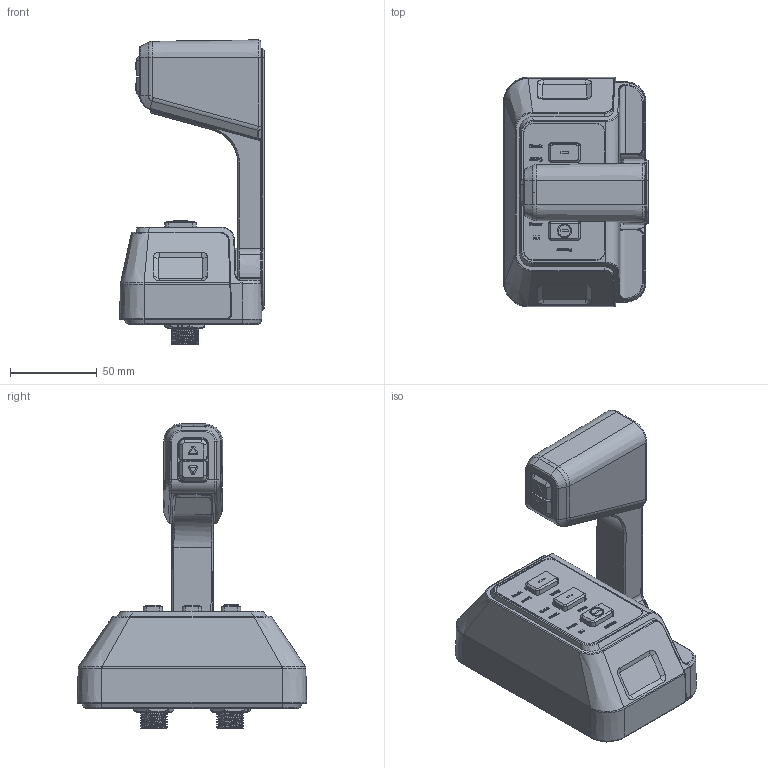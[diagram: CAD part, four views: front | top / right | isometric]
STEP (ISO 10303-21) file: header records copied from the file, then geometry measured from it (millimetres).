
FILE_DESCRIPTION (( 'STEP AP214' ), '1' );
FILE_NAME ('X-有线远操盒（标准单操）.STEP', '2023-03-21T03:46:49', ( '1' ), ( '逸动' ), 'SwSTEP 2.0', 'SolidWorks 2016', '' );
FILE_SCHEMA (( 'AUTOMOTIVE_DESIGN' ));
Length unit declared in the file: millimetre
Products named in the file (1): X-有线远操盒（标准单操）
Bounding box: 83.49 x 132.18 x 175.4 mm (x, y, z)
Surface area: 73720.3 mm2 (no closed solid volume)
Topology: 0 solids, 91 shells, 1025 faces, 3759 edges, 2730 vertices
Faces by surface type: plane 435, cylinder 211, bspline 162, cone 148, sphere 44, torus 25
Entity records: 77177 total; most frequent: CARTESIAN_POINT 37335, ORIENTED_EDGE 5671, DIRECTION 5098, EDGE_CURVE 3686, VERTEX_POINT 2729, LINE 1806, VECTOR 1806, AXIS2_PLACEMENT_3D 1646
